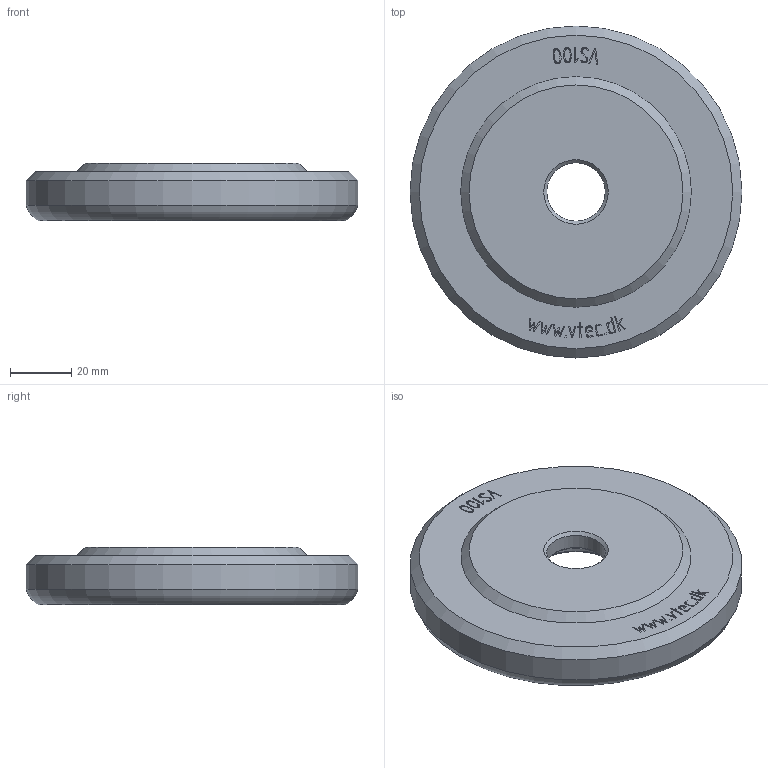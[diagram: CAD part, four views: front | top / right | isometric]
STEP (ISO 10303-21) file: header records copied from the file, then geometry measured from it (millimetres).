
FILE_DESCRIPTION( ( 'STEP AP203' ), '1' );
FILE_NAME( 'C:/撲啗紫賊-02/3D-蘋驍煎斜/Vacuum Pad/VS series/VS100.stp', '2006-04-24T11:57:53', ( ' ' ), ( ' ' ), 'XStep 1.0', ' ', ' ' );
FILE_SCHEMA( ( 'CONFIG_CONTROL_DESIGN) ( )' ) );
Length unit declared in the file: metre
Products named in the file (1): 1
Bounding box: 108 x 108 x 18.7 mm (x, y, z)
Volume: 101619.9 mm3; surface area: 24176.6 mm2
Topology: 1 solids, 1 shells, 158 faces, 395 edges, 261 vertices
Faces by surface type: extrusion 123, plane 24, cone 5, cylinder 4, torus 2
Full cylindrical faces by diameter (mm): 19 x1, 30 x1, 92 x1, 108 x1
Entity records: 5593 total; most frequent: CARTESIAN_POINT 1870, ORIENTED_EDGE 760, DIRECTION 556, VECTOR 454, EDGE_CURVE 380, LINE 331, VERTEX_POINT 261, EDGE_LOOP 197
